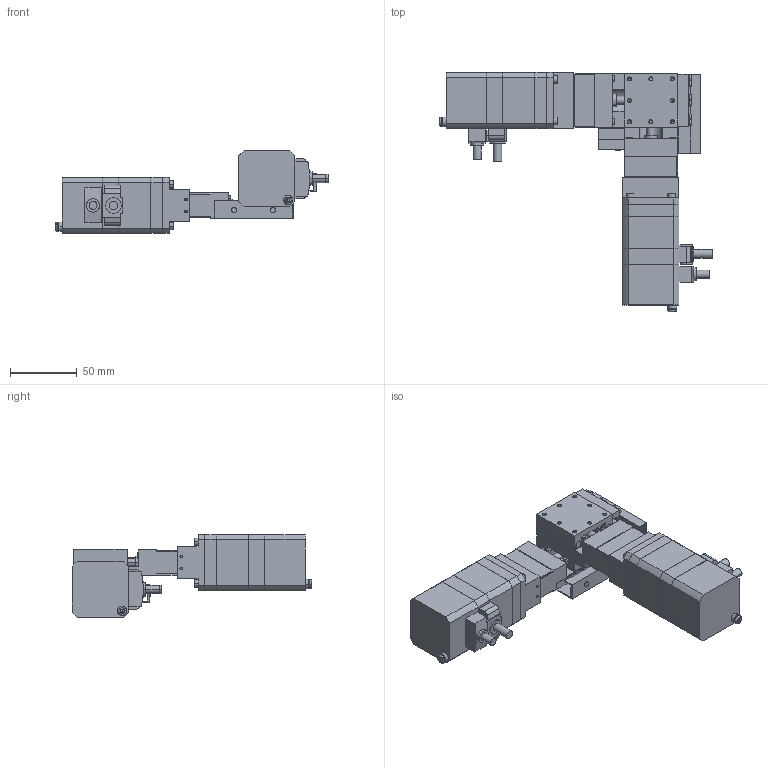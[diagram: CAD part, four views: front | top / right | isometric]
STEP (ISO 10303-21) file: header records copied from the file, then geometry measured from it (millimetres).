
FILE_DESCRIPTION(('STEP AP203'),'1');
FILE_NAME('C:/3D-Trans/3D_PMG413T-L□-M□+241108.step','2024-11-08T05:34:34',(' '),(' '),'Spatial InterOp 3D',' ',' ');
FILE_SCHEMA(('CONFIG_CONTROL_DESIGN'));
Length unit declared in the file: millimetre
Products named in the file (12): 1; 2; 3; 4; 5; 6; 7; 8; 9; 10; 11; 12
Bounding box: 204 x 179 x 62 mm (x, y, z)
Volume: 409198.2 mm3; surface area: 106688.9 mm2
Topology: 12 solids, 12 shells, 1236 faces, 3100 edges, 1948 vertices
Faces by surface type: plane 674, cylinder 410, cone 144, torus 8
Entity records: 37152 total; most frequent: DIRECTION 6560, CARTESIAN_POINT 6368, ORIENTED_EDGE 6088, EDGE_CURVE 3044, AXIS2_PLACEMENT_3D 2280, LINE 2000, VECTOR 2000, VERTEX_POINT 1948
